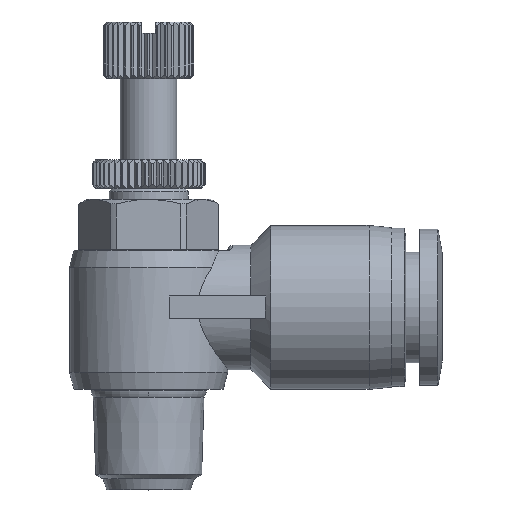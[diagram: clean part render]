
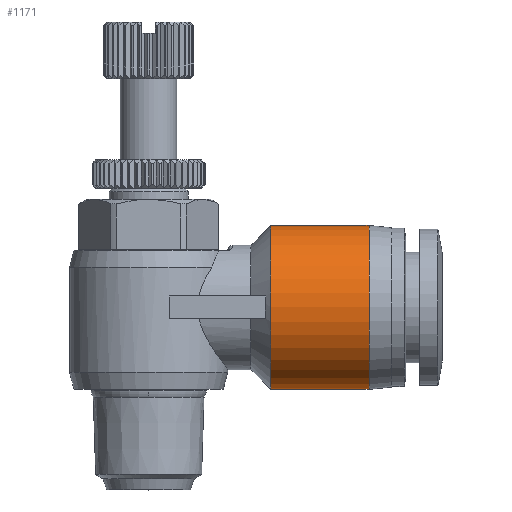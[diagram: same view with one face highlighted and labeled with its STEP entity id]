
A CAD part, top view. The second image highlights one B-rep face of the part: STEP entity #1171.
In plain terms, the highlighted cylindrical face has radius 7.25 mm (diameter 14.5 mm), a partial arc.
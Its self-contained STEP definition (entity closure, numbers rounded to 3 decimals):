
#106 = CARTESIAN_POINT ( 'NONE',  ( 19.5, 15.45, 0. ) ) ;
#297 = LINE ( 'NONE', #7659, #10242 ) ;
#672 = VERTEX_POINT ( 'NONE', #1656 ) ;
#1139 = CYLINDRICAL_SURFACE ( 'NONE', #3889, 7.25 ) ;
#1171 = ADVANCED_FACE ( 'NONE', ( #3162 ), #1139, .T. ) ;
#1656 = CARTESIAN_POINT ( 'NONE',  ( 19.5, 8.2, 0. ) ) ;
#1771 = EDGE_CURVE ( 'NONE', #7359, #13280, #2800, .T. ) ;
#1854 = DIRECTION ( 'NONE',  ( -1., 0., 0. ) ) ;
#1952 = CARTESIAN_POINT ( 'NONE',  ( 10.8, 8.2, 0. ) ) ;
#1986 = LINE ( 'NONE', #4135, #5507 ) ;
#2461 = DIRECTION ( 'NONE',  ( -1., 0., 0. ) ) ;
#2583 = AXIS2_PLACEMENT_3D ( 'NONE', #12078, #8694, #7858 ) ;
#2800 = CIRCLE ( 'NONE', #2583, 7.25 ) ;
#3162 = FACE_OUTER_BOUND ( 'NONE', #4066, .T. ) ;
#3316 = CARTESIAN_POINT ( 'NONE',  ( 19.5, 22.7, 0. ) ) ;
#3589 = ORIENTED_EDGE ( 'NONE', *, *, #13038, .F. ) ;
#3889 = AXIS2_PLACEMENT_3D ( 'NONE', #12775, #4315, #6409 ) ;
#4066 = EDGE_LOOP ( 'NONE', ( #13592, #9420, #12812, #3589 ) ) ;
#4135 = CARTESIAN_POINT ( 'NONE',  ( 15.15, 8.2, 0. ) ) ;
#4315 = DIRECTION ( 'NONE',  ( -1., 0., 0. ) ) ;
#5507 = VECTOR ( 'NONE', #1854, 1000. ) ;
#6409 = DIRECTION ( 'NONE',  ( 0., -1., 0. ) ) ;
#6771 = EDGE_CURVE ( 'NONE', #672, #6790, #9062, .T. ) ;
#6790 = VERTEX_POINT ( 'NONE', #3316 ) ;
#7359 = VERTEX_POINT ( 'NONE', #1952 ) ;
#7659 = CARTESIAN_POINT ( 'NONE',  ( 15.15, 22.7, 0. ) ) ;
#7858 = DIRECTION ( 'NONE',  ( 0., -1., 0. ) ) ;
#8694 = DIRECTION ( 'NONE',  ( -1., 0., 0. ) ) ;
#9062 = CIRCLE ( 'NONE', #13666, 7.25 ) ;
#9420 = ORIENTED_EDGE ( 'NONE', *, *, #9828, .T. ) ;
#9828 = EDGE_CURVE ( 'NONE', #6790, #13280, #297, .T. ) ;
#9840 = DIRECTION ( 'NONE',  ( 0., -1., 0. ) ) ;
#10242 = VECTOR ( 'NONE', #2461, 1000. ) ;
#10376 = CARTESIAN_POINT ( 'NONE',  ( 10.8, 22.7, 0. ) ) ;
#12078 = CARTESIAN_POINT ( 'NONE',  ( 10.8, 15.45, 0. ) ) ;
#12775 = CARTESIAN_POINT ( 'NONE',  ( 15.15, 15.45, 0. ) ) ;
#12812 = ORIENTED_EDGE ( 'NONE', *, *, #1771, .F. ) ;
#13038 = EDGE_CURVE ( 'NONE', #672, #7359, #1986, .T. ) ;
#13085 = DIRECTION ( 'NONE',  ( -1., 0., 0. ) ) ;
#13280 = VERTEX_POINT ( 'NONE', #10376 ) ;
#13592 = ORIENTED_EDGE ( 'NONE', *, *, #6771, .T. ) ;
#13666 = AXIS2_PLACEMENT_3D ( 'NONE', #106, #13085, #9840 ) ;
